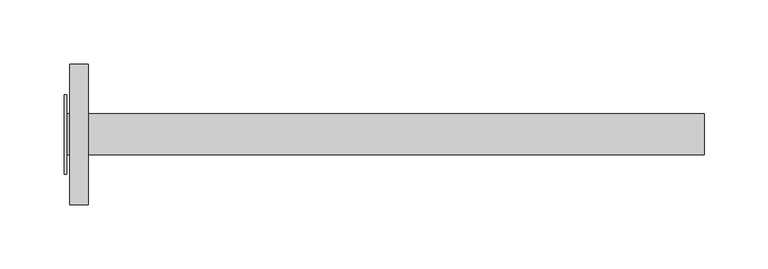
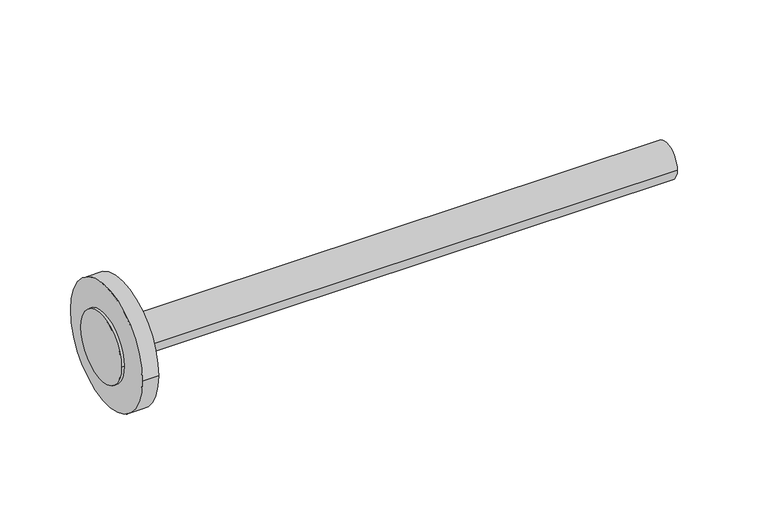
"""IFC4 building model written with IfcOpenShell, lengths in millimetres: pipe fitting geometry, Plumbing-Pipe-Fittings_Pexgol_Flange_Flared-Ends : One side Flared end."""

from ifc_helpers import new_model, si_unit, point, frame, origin, origin_2d, place, context, project, spatial, circle_curve, trimmed, segment, composite_curve, outline, extrude, source, transform, mapped, element, save


def pipe_fitting_988ed77e(model_context):
    return source(origin(), model_context, "Body", "SweptSolid", [
        extrude(outline(composite_curve([segment(trimmed(circle_curve(origin_2d(), 55.0), [point((-55.0, 0.0))], [point((55.0, 0.0))], False, "CARTESIAN"), True, "CONTINUOUS"), segment(trimmed(circle_curve(origin_2d(), 55.0), [point((55.0, 0.0))], [point((-55.0, 0.0))], False, "CARTESIAN"), True, "CONTINUOUS")], self_intersect=False)), frame((4.654546, 0.0, 0.0), z_axis=(1.0, 0.0, 0.0), x_axis=(0.0, 1.0, 0.0)), (0.0, 0.0, 1.0), 14.3),
        extrude(outline(composite_curve([segment(trimmed(circle_curve(origin_2d(), 16.0), [point((-16.0, 0.0))], [point((16.0, 0.0))], False, "CARTESIAN"), True, "CONTINUOUS"), segment(trimmed(circle_curve(origin_2d(), 16.0), [point((16.0, 0.0))], [point((-16.0, 0.0))], False, "CARTESIAN"), True, "CONTINUOUS")], self_intersect=False)), frame((2.327273, 0.0, 0.0), z_axis=(1.0, 0.0, 0.0), x_axis=(0.0, 1.0, 0.0)), (0.0, 0.0, 1.0), 497.672727),
        extrude(outline(composite_curve([segment(trimmed(circle_curve(origin_2d(), 31.0), [point((-31.0, 0.0))], [point((31.0, 0.0))], False, "CARTESIAN"), True, "CONTINUOUS"), segment(trimmed(circle_curve(origin_2d(), 31.0), [point((31.0, 0.0))], [point((-31.0, 0.0))], False, "CARTESIAN"), True, "CONTINUOUS")], self_intersect=False)), frame((0.0, 0.0, 0.0), z_axis=(1.0, 0.0, 0.0), x_axis=(0.0, 1.0, 0.0)), (0.0, 0.0, 1.0), 2.327273),
    ])


if __name__ == "__main__":
    model = new_model("IFC4")
    model_context = context("Model", 3, world=origin())
    ifc_project = project(units=[si_unit("LENGTHUNIT", "METRE", prefix="MILLI")], contexts=[model_context])
    site = spatial("IfcSite", under=ifc_project)
    building = spatial("IfcBuilding", under=site)
    placement = place(None, origin())
    pipe_fitting_shape = pipe_fitting_988ed77e(model_context)
    element("IfcPipeFitting", 1, ObjectType="Plumbing-Pipe-Fittings_Pexgol_Flange_Flared-Ends : One side Flared end", at=placement, inside=building, context=model_context, shape_type="MappedRepresentation", body=[
        mapped(pipe_fitting_shape, transform((0.0, 0.0, 0.0), x_axis=(1.0, 0.0, 0.0), y_axis=(0.0, 1.0, 0.0), z_axis=(0.0, 0.0, 1.0))),
    ])
    save(model, "model.ifc")
